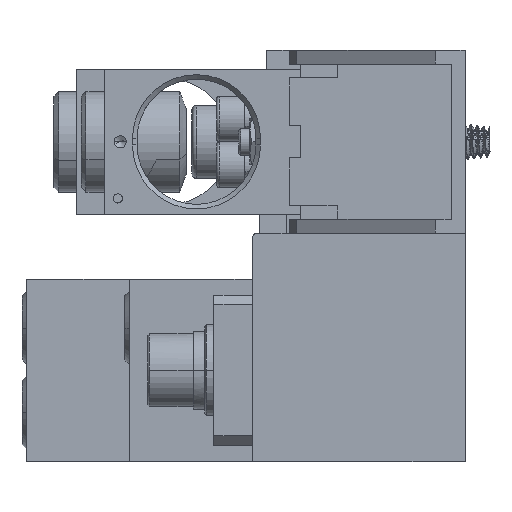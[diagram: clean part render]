
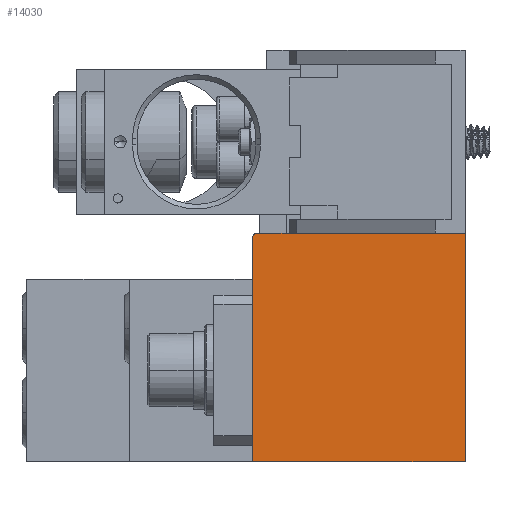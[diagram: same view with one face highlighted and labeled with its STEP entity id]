
A CAD part, left-side view. The second image highlights one B-rep face of the part: STEP entity #14030.
In plain terms, the highlighted planar face has unit normal (-1, 0, 0).
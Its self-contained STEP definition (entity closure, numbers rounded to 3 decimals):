
#4877=DIRECTION('',(0.,1.,0.));
#4878=VECTOR('',#4877,38.5);
#4879=CARTESIAN_POINT('',(-29.,-3.5,-20.));
#4880=LINE('',#4879,#4878);
#5080=CARTESIAN_POINT('',(-29.,42.,-21.));
#5081=DIRECTION('',(-1.,0.,0.));
#5082=DIRECTION('',(0.,0.,1.));
#5083=AXIS2_PLACEMENT_3D('',#5080,#5081,#5082);
#5088=DIRECTION('',(0.,0.,-1.));
#5089=VECTOR('',#5088,50.);
#5090=CARTESIAN_POINT('',(-29.,-3.5,-20.));
#5091=LINE('',#5090,#5089);
#5116=DIRECTION('',(0.,0.,-1.));
#5117=VECTOR('',#5116,49.);
#5118=CARTESIAN_POINT('',(-29.,43.,-21.));
#5119=LINE('',#5118,#5117);
#5302=DIRECTION('',(0.,1.,0.));
#5303=VECTOR('',#5302,46.5);
#5304=CARTESIAN_POINT('',(-29.,-3.5,-70.));
#5305=LINE('',#5304,#5303);
#5344=DIRECTION('',(0.,1.,0.));
#5345=VECTOR('',#5344,7.);
#5346=CARTESIAN_POINT('',(-29.,35.,-20.));
#5347=LINE('',#5346,#5345);
#8443=CARTESIAN_POINT('',(-29.,35.,-20.));
#8444=VERTEX_POINT('',#8443);
#8457=CARTESIAN_POINT('',(-29.,42.,-20.));
#8458=CARTESIAN_POINT('',(-29.,43.,-21.));
#8459=VERTEX_POINT('',#8457);
#8460=VERTEX_POINT('',#8458);
#8465=CARTESIAN_POINT('',(-29.,43.,-70.));
#8466=VERTEX_POINT('',#8465);
#8596=CARTESIAN_POINT('',(-29.,-3.5,-70.));
#8598=VERTEX_POINT('',#8596);
#8601=CARTESIAN_POINT('',(-29.,-3.5,-20.));
#8602=VERTEX_POINT('',#8601);
#14013=CARTESIAN_POINT('',(-29.,0.,-20.));
#14014=DIRECTION('',(-1.,0.,0.));
#14015=DIRECTION('',(0.,1.,0.));
#14016=AXIS2_PLACEMENT_3D('',#14013,#14014,#14015);
#14017=PLANE('',#14016);
#14019=ORIENTED_EDGE('',*,*,#14018,.F.);
#14021=ORIENTED_EDGE('',*,*,#14020,.F.);
#14022=ORIENTED_EDGE('',*,*,#13761,.F.);
#14023=ORIENTED_EDGE('',*,*,#10160,.T.);
#14025=ORIENTED_EDGE('',*,*,#14024,.T.);
#14027=ORIENTED_EDGE('',*,*,#14026,.F.);
#14028=EDGE_LOOP('',(#14019,#14021,#14022,#14023,#14025,#14027));
#14029=FACE_OUTER_BOUND('',#14028,.F.);
#14030=ADVANCED_FACE('',(#14029),#14017,.T.);
#5084=CIRCLE('',#5083,1.);
#10160=EDGE_CURVE('',#8602,#8598,#5091,.T.);
#13761=EDGE_CURVE('',#8602,#8444,#4880,.T.);
#14018=EDGE_CURVE('',#8459,#8460,#5084,.T.);
#14020=EDGE_CURVE('',#8444,#8459,#5347,.T.);
#14024=EDGE_CURVE('',#8598,#8466,#5305,.T.);
#14026=EDGE_CURVE('',#8460,#8466,#5119,.T.);
